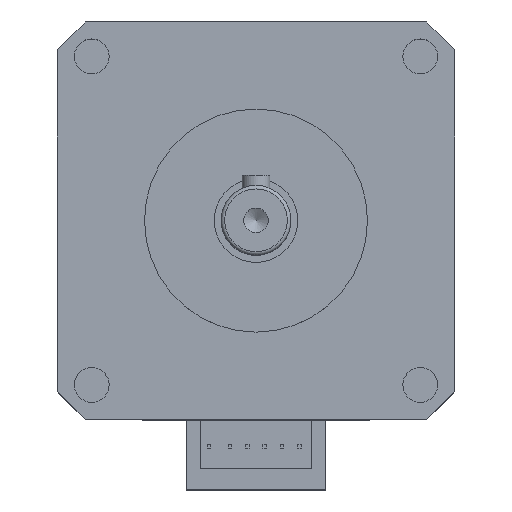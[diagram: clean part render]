
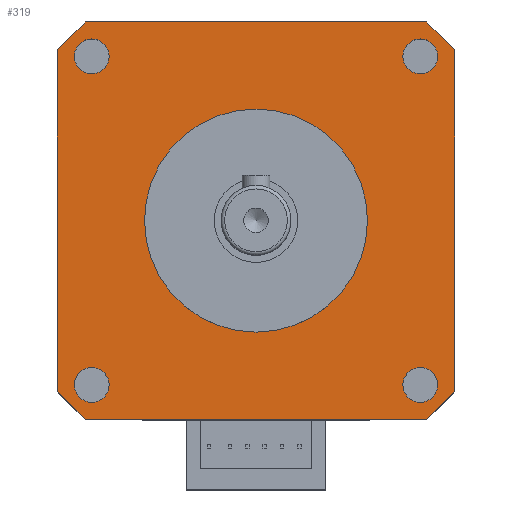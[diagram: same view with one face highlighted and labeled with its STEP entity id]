
A CAD part, top view. The second image highlights one B-rep face of the part: STEP entity #319.
In plain terms, the highlighted planar face has unit normal (0, 0, 1).
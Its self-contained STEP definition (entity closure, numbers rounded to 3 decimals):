
#319=ADVANCED_FACE('',(#1274,#1275,#1276,#1277,#1278,#1279),#487,.F.);
#487=PLANE('',#3218);
#610=LINE('',#4393,#938);
#614=LINE('',#4401,#942);
#617=LINE('',#4407,#945);
#620=LINE('',#4413,#948);
#622=LINE('',#4417,#950);
#623=LINE('',#4418,#951);
#624=LINE('',#4419,#952);
#625=LINE('',#4420,#953);
#938=VECTOR('',#3522,1.);
#942=VECTOR('',#3528,1.);
#945=VECTOR('',#3533,1.);
#948=VECTOR('',#3538,1.);
#950=VECTOR('',#3542,1.);
#951=VECTOR('',#3543,1.);
#952=VECTOR('',#3544,1.);
#953=VECTOR('',#3545,1.);
#1274=FACE_BOUND('',#1329,.T.);
#1275=FACE_BOUND('',#1330,.T.);
#1276=FACE_BOUND('',#1331,.T.);
#1277=FACE_BOUND('',#1332,.T.);
#1278=FACE_BOUND('',#1333,.T.);
#1279=FACE_BOUND('',#1334,.T.);
#1329=EDGE_LOOP('',(#1557));
#1330=EDGE_LOOP('',(#1558,#1559,#1560,#1561,#1562,#1563,#1564,#1565));
#1331=EDGE_LOOP('',(#1566));
#1332=EDGE_LOOP('',(#1567));
#1333=EDGE_LOOP('',(#1568));
#1334=EDGE_LOOP('',(#1569));
#1557=ORIENTED_EDGE('',*,*,#2680,.T.);
#1558=ORIENTED_EDGE('',*,*,#2685,.F.);
#1559=ORIENTED_EDGE('',*,*,#2693,.T.);
#1560=ORIENTED_EDGE('',*,*,#2681,.F.);
#1561=ORIENTED_EDGE('',*,*,#2694,.T.);
#1562=ORIENTED_EDGE('',*,*,#2691,.F.);
#1563=ORIENTED_EDGE('',*,*,#2695,.T.);
#1564=ORIENTED_EDGE('',*,*,#2688,.F.);
#1565=ORIENTED_EDGE('',*,*,#2696,.T.);
#1566=ORIENTED_EDGE('',*,*,#2697,.F.);
#1567=ORIENTED_EDGE('',*,*,#2698,.F.);
#1568=ORIENTED_EDGE('',*,*,#2699,.F.);
#1569=ORIENTED_EDGE('',*,*,#2700,.F.);
#2386=VERTEX_POINT('',#4390);
#2387=VERTEX_POINT('',#4394);
#2388=VERTEX_POINT('',#4395);
#2389=VERTEX_POINT('',#4400);
#2390=VERTEX_POINT('',#4402);
#2391=VERTEX_POINT('',#4406);
#2392=VERTEX_POINT('',#4408);
#2393=VERTEX_POINT('',#4412);
#2394=VERTEX_POINT('',#4414);
#2395=VERTEX_POINT('',#4422);
#2396=VERTEX_POINT('',#4424);
#2397=VERTEX_POINT('',#4426);
#2398=VERTEX_POINT('',#4428);
#2680=EDGE_CURVE('',#2386,#2386,#3097,.T.);
#2681=EDGE_CURVE('',#2387,#2388,#610,.T.);
#2685=EDGE_CURVE('',#2389,#2390,#614,.T.);
#2688=EDGE_CURVE('',#2391,#2392,#617,.T.);
#2691=EDGE_CURVE('',#2393,#2394,#620,.T.);
#2693=EDGE_CURVE('',#2389,#2388,#622,.T.);
#2694=EDGE_CURVE('',#2387,#2394,#623,.T.);
#2695=EDGE_CURVE('',#2393,#2392,#624,.T.);
#2696=EDGE_CURVE('',#2391,#2390,#625,.T.);
#2697=EDGE_CURVE('',#2395,#2395,#3098,.T.);
#2698=EDGE_CURVE('',#2396,#2396,#3099,.T.);
#2699=EDGE_CURVE('',#2397,#2397,#3100,.T.);
#2700=EDGE_CURVE('',#2398,#2398,#3101,.T.);
#3097=CIRCLE('',#3207,16.);
#3098=CIRCLE('',#3214,2.5);
#3099=CIRCLE('',#3215,2.5);
#3100=CIRCLE('',#3216,2.5);
#3101=CIRCLE('',#3217,2.5);
#3207=AXIS2_PLACEMENT_3D('',#4389,#3516,#3517);
#3214=AXIS2_PLACEMENT_3D('',#4421,#3546,#3547);
#3215=AXIS2_PLACEMENT_3D('',#4423,#3548,#3549);
#3216=AXIS2_PLACEMENT_3D('',#4425,#3550,#3551);
#3217=AXIS2_PLACEMENT_3D('',#4427,#3552,#3553);
#3218=AXIS2_PLACEMENT_3D('',#4429,#3554,#3555);
#3516=DIRECTION('',(0.,0.,-1.));
#3517=DIRECTION('',(1.,0.,0.));
#3522=DIRECTION('',(0.,1.,0.));
#3528=DIRECTION('',(1.,0.,0.));
#3533=DIRECTION('',(0.,-1.,0.));
#3538=DIRECTION('',(-1.,0.,0.));
#3542=DIRECTION('',(-0.707,-0.707,0.));
#3543=DIRECTION('',(0.707,-0.707,0.));
#3544=DIRECTION('',(0.707,0.707,0.));
#3545=DIRECTION('',(-0.707,0.707,0.));
#3546=DIRECTION('',(0.,0.,1.));
#3547=DIRECTION('',(1.,0.,0.));
#3548=DIRECTION('',(0.,0.,1.));
#3549=DIRECTION('',(1.,0.,0.));
#3550=DIRECTION('',(0.,0.,1.));
#3551=DIRECTION('',(1.,0.,0.));
#3552=DIRECTION('',(0.,0.,1.));
#3553=DIRECTION('',(1.,0.,0.));
#3554=DIRECTION('',(0.,0.,-1.));
#3555=DIRECTION('',(-1.,0.,0.));
#4389=CARTESIAN_POINT('',(0.,0.,0.));
#4390=CARTESIAN_POINT('',(16.,0.,0.));
#4393=CARTESIAN_POINT('',(-28.5,-28.5,0.));
#4394=CARTESIAN_POINT('',(-28.5,-24.5,0.));
#4395=CARTESIAN_POINT('',(-28.5,24.5,0.));
#4400=CARTESIAN_POINT('',(-24.5,28.5,0.));
#4401=CARTESIAN_POINT('',(-28.5,28.5,0.));
#4402=CARTESIAN_POINT('',(24.5,28.5,0.));
#4406=CARTESIAN_POINT('',(28.5,24.5,0.));
#4407=CARTESIAN_POINT('',(28.5,28.5,0.));
#4408=CARTESIAN_POINT('',(28.5,-24.5,0.));
#4412=CARTESIAN_POINT('',(24.5,-28.5,0.));
#4413=CARTESIAN_POINT('',(28.5,-28.5,0.));
#4414=CARTESIAN_POINT('',(-24.5,-28.5,0.));
#4417=CARTESIAN_POINT('',(-24.5,28.5,0.));
#4418=CARTESIAN_POINT('',(-28.5,-24.5,0.));
#4419=CARTESIAN_POINT('',(24.5,-28.5,0.));
#4420=CARTESIAN_POINT('',(28.5,24.5,0.));
#4421=CARTESIAN_POINT('',(-23.57,23.57,0.));
#4422=CARTESIAN_POINT('',(-21.07,23.57,0.));
#4423=CARTESIAN_POINT('',(23.57,23.57,0.));
#4424=CARTESIAN_POINT('',(26.07,23.57,0.));
#4425=CARTESIAN_POINT('',(23.57,-23.57,0.));
#4426=CARTESIAN_POINT('',(26.07,-23.57,0.));
#4427=CARTESIAN_POINT('',(-23.57,-23.57,0.));
#4428=CARTESIAN_POINT('',(-21.07,-23.57,0.));
#4429=CARTESIAN_POINT('',(-28.5,-28.5,0.));
